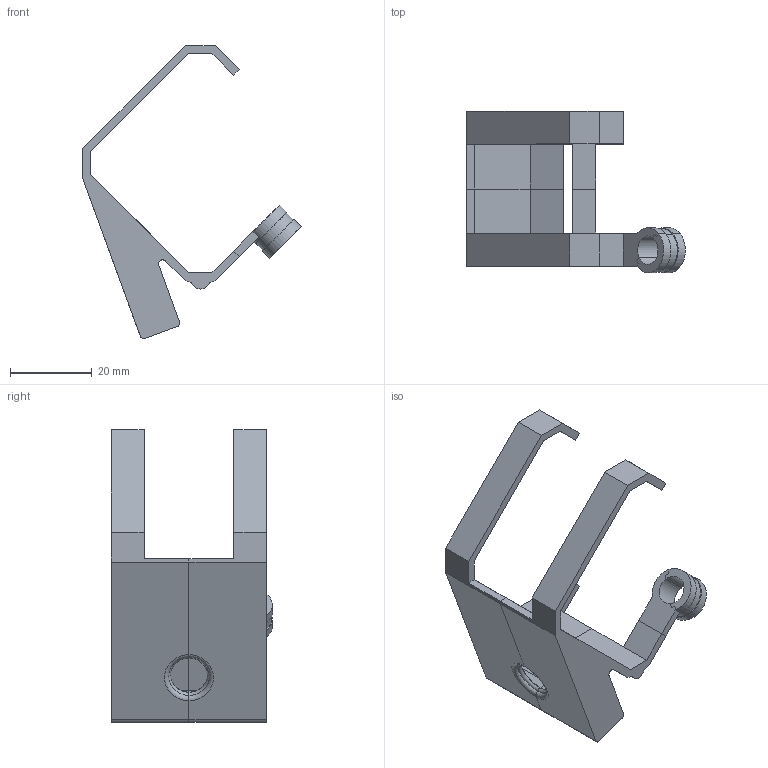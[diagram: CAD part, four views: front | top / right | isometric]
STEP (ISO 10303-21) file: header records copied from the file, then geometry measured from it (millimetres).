
FILE_DESCRIPTION(/* description */ (''),/* implementation_level */ '2;1');
FILE_NAME(/* name */ '/Users/scopalme/Library/Mobile Documents/com~apple~CloudDocs/3D Modeling/Printers/Prusa Mini/mini pi camera mount/Pi Camera Mount - 4mm.step',/* time_stamp */ '2020-11-17T09:15:39-05:00',/* author */ (''),/* organization */ (''),/* preprocessor_version */ 'ST-DEVELOPER v18.1',/* originating_system */ 'Autodesk Translation Framework v9.3.0.1241',/* authorisation */ '');
FILE_SCHEMA (('AUTOMOTIVE_DESIGN { 1 0 10303 214 3 1 1 }'));
Length unit declared in the file: millimetre
Products named in the file (1): Pi Camera Mount - 4mm
Bounding box: 53.61 x 39.49 x 71.86 mm (x, y, z)
Volume: 12940.1 mm3; surface area: 11561.3 mm2
Topology: 4 solids, 4 shells, 157 faces, 414 edges, 273 vertices
Faces by surface type: plane 115, cylinder 38, torus 4
Full cylindrical faces by diameter (mm): 2 x4, 2.5 x4
Entity records: 4864 total; most frequent: CARTESIAN_POINT 845, ORIENTED_EDGE 828, DIRECTION 828, EDGE_CURVE 414, LINE 316, VECTOR 316, VERTEX_POINT 273, AXIS2_PLACEMENT_3D 256
